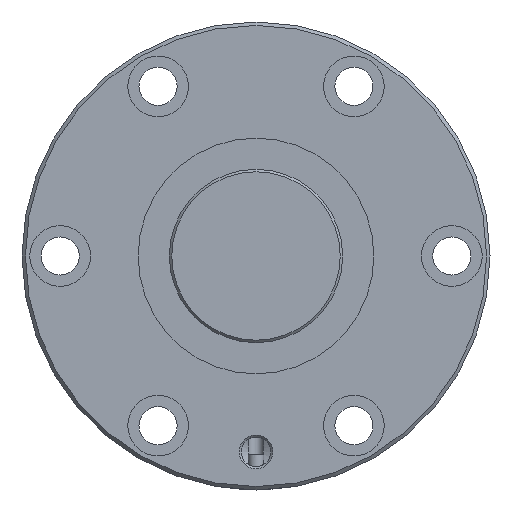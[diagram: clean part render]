
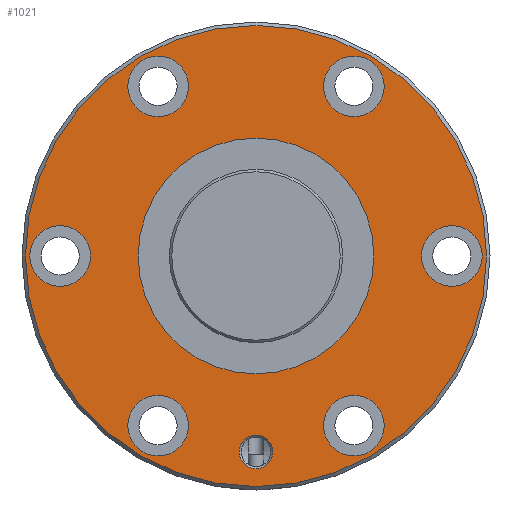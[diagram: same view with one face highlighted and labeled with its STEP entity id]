
A CAD part, left-side view. The second image highlights one B-rep face of the part: STEP entity #1021.
In plain terms, the highlighted planar face has unit normal (-1, 0, 0).
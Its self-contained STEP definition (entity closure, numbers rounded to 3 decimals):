
#162=ORIENTED_EDGE('',*,*,#385,.T.);
#163=ORIENTED_EDGE('',*,*,#386,.T.);
#164=ORIENTED_EDGE('',*,*,#387,.T.);
#165=ORIENTED_EDGE('',*,*,#388,.T.);
#166=ORIENTED_EDGE('',*,*,#389,.T.);
#167=ORIENTED_EDGE('',*,*,#390,.T.);
#168=ORIENTED_EDGE('',*,*,#391,.T.);
#169=ORIENTED_EDGE('',*,*,#392,.T.);
#170=ORIENTED_EDGE('',*,*,#384,.F.);
#384=EDGE_CURVE('',#499,#499,#593,.T.);
#385=EDGE_CURVE('',#500,#500,#594,.T.);
#386=EDGE_CURVE('',#501,#501,#595,.F.);
#387=EDGE_CURVE('',#502,#502,#596,.T.);
#388=EDGE_CURVE('',#503,#503,#597,.T.);
#389=EDGE_CURVE('',#504,#504,#598,.T.);
#390=EDGE_CURVE('',#505,#505,#599,.T.);
#391=EDGE_CURVE('',#506,#506,#600,.T.);
#392=EDGE_CURVE('',#507,#507,#601,.T.);
#499=VERTEX_POINT('',#1711);
#500=VERTEX_POINT('',#1714);
#501=VERTEX_POINT('',#1716);
#502=VERTEX_POINT('',#1718);
#503=VERTEX_POINT('',#1720);
#504=VERTEX_POINT('',#1722);
#505=VERTEX_POINT('',#1724);
#506=VERTEX_POINT('',#1726);
#507=VERTEX_POINT('',#1728);
#593=CIRCLE('',#1136,66.5);
#594=CIRCLE('',#1138,34.);
#595=CIRCLE('',#1139,8.75);
#596=CIRCLE('',#1140,4.864);
#597=CIRCLE('',#1141,8.75);
#598=CIRCLE('',#1142,8.75);
#599=CIRCLE('',#1143,8.75);
#600=CIRCLE('',#1144,8.75);
#601=CIRCLE('',#1145,8.75);
#682=EDGE_LOOP('',(#162));
#683=EDGE_LOOP('',(#163));
#684=EDGE_LOOP('',(#164));
#685=EDGE_LOOP('',(#165));
#686=EDGE_LOOP('',(#166));
#687=EDGE_LOOP('',(#167));
#688=EDGE_LOOP('',(#168));
#689=EDGE_LOOP('',(#169));
#690=EDGE_LOOP('',(#170));
#842=FACE_BOUND('',#682,.T.);
#843=FACE_BOUND('',#683,.T.);
#844=FACE_BOUND('',#684,.T.);
#845=FACE_BOUND('',#685,.T.);
#846=FACE_BOUND('',#686,.T.);
#847=FACE_BOUND('',#687,.T.);
#848=FACE_BOUND('',#688,.T.);
#849=FACE_BOUND('',#689,.T.);
#850=FACE_BOUND('',#690,.T.);
#984=PLANE('',#1137);
#1021=ADVANCED_FACE('',(#842,#843,#844,#845,#846,#847,#848,#849,#850),#984,
 .T.);
#1136=AXIS2_PLACEMENT_3D('',#1710,#1322,#1323);
#1137=AXIS2_PLACEMENT_3D('',#1712,#1324,#1325);
#1138=AXIS2_PLACEMENT_3D('',#1713,#1326,#1327);
#1139=AXIS2_PLACEMENT_3D('',#1715,#1328,#1329);
#1140=AXIS2_PLACEMENT_3D('',#1717,#1330,#1331);
#1141=AXIS2_PLACEMENT_3D('',#1719,#1332,#1333);
#1142=AXIS2_PLACEMENT_3D('',#1721,#1334,#1335);
#1143=AXIS2_PLACEMENT_3D('',#1723,#1336,#1337);
#1144=AXIS2_PLACEMENT_3D('',#1725,#1338,#1339);
#1145=AXIS2_PLACEMENT_3D('',#1727,#1340,#1341);
#1322=DIRECTION('',(1.,0.,0.));
#1323=DIRECTION('',(0.,0.,-1.));
#1324=DIRECTION('',(-1.,0.,0.));
#1325=DIRECTION('',(0.,0.,1.));
#1326=DIRECTION('',(1.,0.,0.));
#1327=DIRECTION('',(0.,0.,-1.));
#1328=DIRECTION('',(-1.,0.,0.));
#1329=DIRECTION('',(0.,0.,1.));
#1330=DIRECTION('',(1.,0.,0.));
#1331=DIRECTION('',(0.,0.,-1.));
#1332=DIRECTION('',(1.,0.,0.));
#1333=DIRECTION('',(0.,0.,-1.));
#1334=DIRECTION('',(1.,0.,0.));
#1335=DIRECTION('',(0.,0.,-1.));
#1336=DIRECTION('',(1.,0.,0.));
#1337=DIRECTION('',(0.,0.,-1.));
#1338=DIRECTION('',(1.,0.,0.));
#1339=DIRECTION('',(0.,0.,-1.));
#1340=DIRECTION('',(1.,0.,0.));
#1341=DIRECTION('',(0.,0.,-1.));
#1710=CARTESIAN_POINT('',(0.,0.,0.));
#1711=CARTESIAN_POINT('',(0.,0.,-66.5));
#1712=CARTESIAN_POINT('',(0.,66.5,0.));
#1713=CARTESIAN_POINT('',(0.,0.,0.));
#1714=CARTESIAN_POINT('',(0.,0.,-34.));
#1715=CARTESIAN_POINT('',(0.,56.5,0.));
#1716=CARTESIAN_POINT('',(0.,56.5,8.75));
#1717=CARTESIAN_POINT('',(0.,0.,-56.5));
#1718=CARTESIAN_POINT('',(0.,0.,-61.364));
#1719=CARTESIAN_POINT('',(0.,-56.5,0.));
#1720=CARTESIAN_POINT('',(0.,-56.5,-8.75));
#1721=CARTESIAN_POINT('',(0.,28.25,48.93));
#1722=CARTESIAN_POINT('',(0.,28.25,40.18));
#1723=CARTESIAN_POINT('',(0.,-28.25,-48.93));
#1724=CARTESIAN_POINT('',(0.,-28.25,-57.68));
#1725=CARTESIAN_POINT('',(0.,-28.25,48.93));
#1726=CARTESIAN_POINT('',(0.,-28.25,40.18));
#1727=CARTESIAN_POINT('',(0.,28.25,-48.93));
#1728=CARTESIAN_POINT('',(0.,28.25,-57.68));
